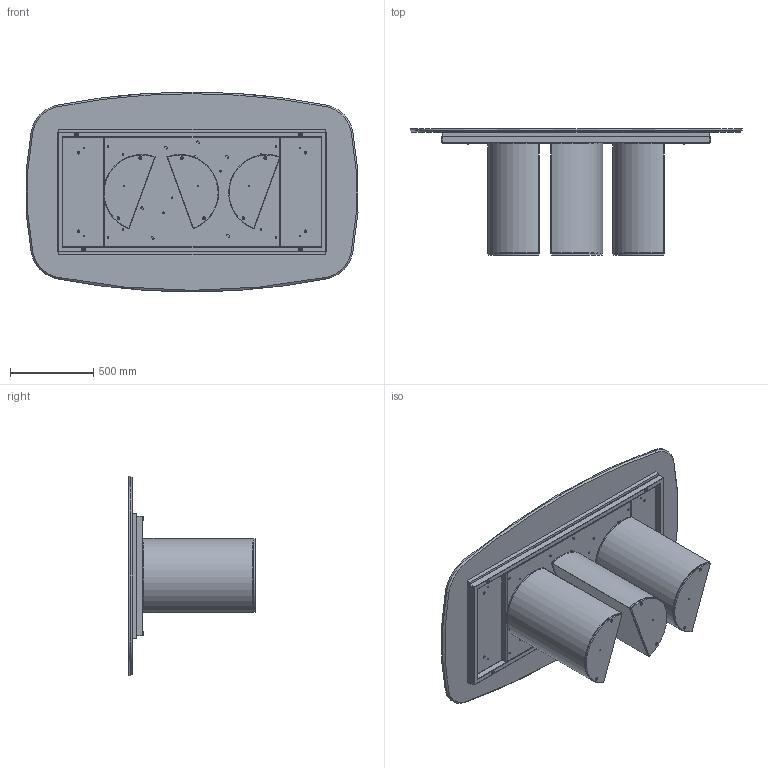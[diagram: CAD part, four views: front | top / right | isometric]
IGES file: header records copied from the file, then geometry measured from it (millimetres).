
Start section: SolidWorks IGES file using analytic representation for surfaces
Global section: file name: Y:\eforma\TECNICO\SOLIDWORKS\E-FORMA\1-TAVOLI\PLAI\02 parts\PL41M.IGS; native system: SolidWorks 2022; preprocessor: SolidWorks 2022; author: eforma.tech; date: 240807.155427; units: millimetre
Bounding box: 1992.14 x 759 x 1200 mm (x, y, z)
Volume: 86190015.6 mm3; surface area: 15619322.9 mm2
Topology: 45 solids, 45 shells, 1324 faces, 3002 edges, 1731 vertices
Faces by surface type: revolution 811, plane 513
